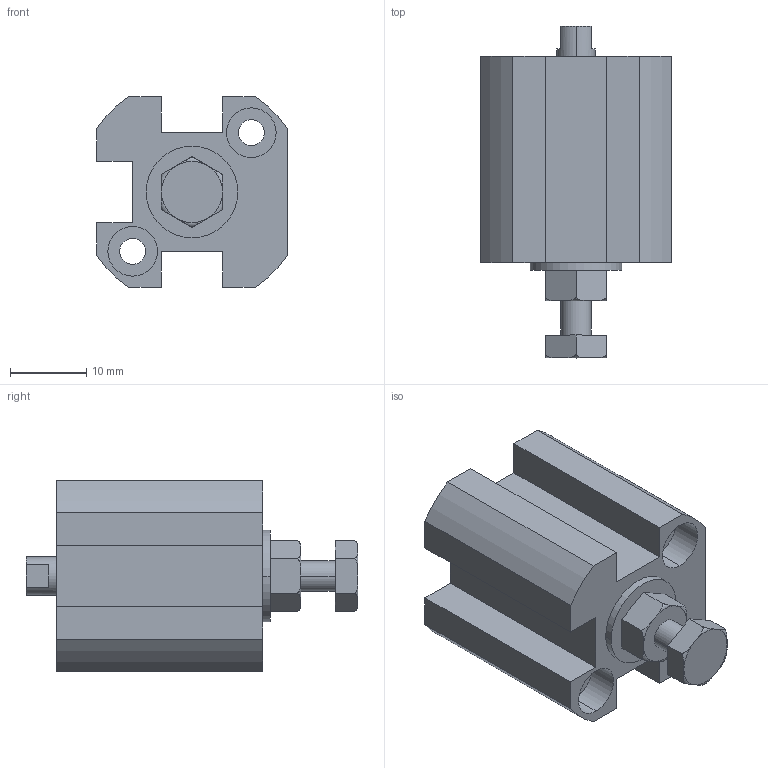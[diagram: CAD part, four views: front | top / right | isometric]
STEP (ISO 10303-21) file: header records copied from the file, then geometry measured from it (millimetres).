
FILE_DESCRIPTION (( 'STEP AP203' ), '1' );
FILE_NAME ('XCA2-10-10.STEP', '2016-05-24T02:28:57', ( '' ), ( '' ), 'SwSTEP 2.0', 'SolidWorks 2014', '' );
FILE_SCHEMA (( 'CONFIG_CONTROL_DESIGN' ));
Length unit declared in the file: millimetre
Products named in the file (3): XCA2-10-10; X#A2-10-H; XC#2-10-10
Assembly tree (2 placements, depth 2):
  XCA2-10-10
    XC#2-10-10
    X#A2-10-H
Bounding box: 25 x 43.5 x 25 mm (x, y, z)
Volume: 12190.3 mm3; surface area: 6035.5 mm2
Topology: 2 solids, 2 shells, 109 faces, 259 edges, 165 vertices
Faces by surface type: plane 50, cylinder 43, torus 12, cone 4
Entity records: 3669 total; most frequent: CARTESIAN_POINT 806, DIRECTION 562, ORIENTED_EDGE 510, EDGE_CURVE 255, AXIS2_PLACEMENT_3D 217, VERTEX_POINT 165, LINE 128, EDGE_LOOP 128
